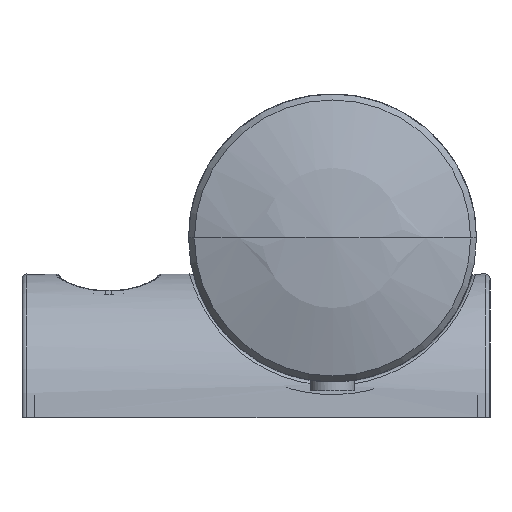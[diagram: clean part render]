
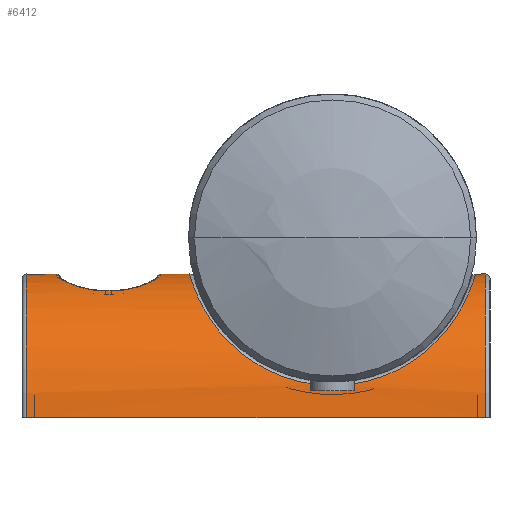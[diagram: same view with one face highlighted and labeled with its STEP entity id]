
A CAD part, left-side view. The second image highlights one B-rep face of the part: STEP entity #6412.
In plain terms, the highlighted cylindrical face has radius 16 mm (diameter 32 mm), a partial arc.
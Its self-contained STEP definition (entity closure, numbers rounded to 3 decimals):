
#6412=ADVANCED_FACE('',(#9072,#9073,#9074),#6718,.T.);
#6718=CYLINDRICAL_SURFACE('',#45813,16.);
#8068=CIRCLE('',#45809,16.);
#8069=CIRCLE('',#45810,16.);
#8070=CIRCLE('',#45811,16.);
#8071=CIRCLE('',#45812,16.);
#8808=B_SPLINE_CURVE_WITH_KNOTS('',3,(#77419,#77420,#77421,#77422,#77423,
#77424,#77425,#77426,#77427,#77428,#77429,#77430,#77431,#77432,#77433,#77434,
#77435,#77436,#77437,#77438,#77439,#77440,#77441,#77442,#77443,#77444,#77445,
#77446,#77447,#77448,#77449,#77450,#77451,#77452),.UNSPECIFIED.,.T.,.F.,
(2,2,2,2,2,2,2,2,2,2,2,2,2,2,2,2,2,2,2),(-0.063,0.,0.063,0.125,0.188,
0.25,0.313,0.375,0.438,0.5,0.563,0.625,0.688,0.75,0.813,0.875,0.938,
1.,1.063),.UNSPECIFIED.);
#8809=B_SPLINE_CURVE_WITH_KNOTS('',3,(#77457,#77458,#77459,#77460,#77461,
#77462),.UNSPECIFIED.,.F.,.F.,(4,2,4),(0.,0.5,1.),.UNSPECIFIED.);
#8810=B_SPLINE_CURVE_WITH_KNOTS('',3,(#77466,#77467,#77468,#77469,#77470,
#77471),.UNSPECIFIED.,.F.,.F.,(4,2,4),(0.,0.5,1.),.UNSPECIFIED.);
#8811=B_SPLINE_CURVE_WITH_KNOTS('',3,(#77475,#77476,#77477,#77478,#77479,
#77480),.UNSPECIFIED.,.F.,.F.,(4,2,4),(0.,0.5,1.),.UNSPECIFIED.);
#8812=B_SPLINE_CURVE_WITH_KNOTS('',3,(#77484,#77485,#77486,#77487,#77488,
#77489),.UNSPECIFIED.,.F.,.F.,(4,2,4),(0.,0.5,1.),.UNSPECIFIED.);
#9072=FACE_BOUND('',#11438,.T.);
#9073=FACE_BOUND('',#11439,.T.);
#9074=FACE_BOUND('',#11440,.T.);
#11438=EDGE_LOOP('',(#23671));
#11439=EDGE_LOOP('',(#23672,#23673,#23674,#23675,#23676,#23677,#23678,#23679));
#11440=EDGE_LOOP('',(#23680,#23681,#23682,#23683));
#23671=ORIENTED_EDGE('',*,*,#34146,.T.);
#23672=ORIENTED_EDGE('',*,*,#34147,.T.);
#23673=ORIENTED_EDGE('',*,*,#34148,.T.);
#23674=ORIENTED_EDGE('',*,*,#34149,.T.);
#23675=ORIENTED_EDGE('',*,*,#34150,.T.);
#23676=ORIENTED_EDGE('',*,*,#34151,.T.);
#23677=ORIENTED_EDGE('',*,*,#34152,.T.);
#23678=ORIENTED_EDGE('',*,*,#34153,.T.);
#23679=ORIENTED_EDGE('',*,*,#34154,.T.);
#23680=ORIENTED_EDGE('',*,*,#34155,.F.);
#23681=ORIENTED_EDGE('',*,*,#34156,.T.);
#23682=ORIENTED_EDGE('',*,*,#34157,.F.);
#23683=ORIENTED_EDGE('',*,*,#34158,.T.);
#28010=VERTEX_POINT('',#77453);
#28011=VERTEX_POINT('',#77455);
#28012=VERTEX_POINT('',#77456);
#28013=VERTEX_POINT('',#77463);
#28014=VERTEX_POINT('',#77465);
#28015=VERTEX_POINT('',#77472);
#28016=VERTEX_POINT('',#77474);
#28017=VERTEX_POINT('',#77481);
#28018=VERTEX_POINT('',#77483);
#28019=VERTEX_POINT('',#77491);
#28020=VERTEX_POINT('',#77492);
#28021=VERTEX_POINT('',#77494);
#28022=VERTEX_POINT('',#77496);
#34146=EDGE_CURVE('',#28010,#28010,#8808,.T.);
#34147=EDGE_CURVE('',#28011,#28012,#8068,.T.);
#34148=EDGE_CURVE('',#28012,#28013,#8809,.T.);
#34149=EDGE_CURVE('',#28013,#28014,#38258,.T.);
#34150=EDGE_CURVE('',#28014,#28015,#8810,.T.);
#34151=EDGE_CURVE('',#28015,#28016,#8069,.T.);
#34152=EDGE_CURVE('',#28016,#28017,#8811,.T.);
#34153=EDGE_CURVE('',#28017,#28018,#38259,.T.);
#34154=EDGE_CURVE('',#28018,#28011,#8812,.T.);
#34155=EDGE_CURVE('',#28019,#28020,#38260,.T.);
#34156=EDGE_CURVE('',#28019,#28021,#8070,.T.);
#34157=EDGE_CURVE('',#28022,#28021,#38261,.T.);
#34158=EDGE_CURVE('',#28022,#28020,#8071,.T.);
#38258=LINE('',#77464,#42298);
#38259=LINE('',#77482,#42299);
#38260=LINE('',#77490,#42300);
#38261=LINE('',#77495,#42301);
#42298=VECTOR('',#56750,1.);
#42299=VECTOR('',#56753,1.);
#42300=VECTOR('',#56754,1.);
#42301=VECTOR('',#56757,1.);
#45809=AXIS2_PLACEMENT_3D('',#77454,#56748,#56749);
#45810=AXIS2_PLACEMENT_3D('',#77473,#56751,#56752);
#45811=AXIS2_PLACEMENT_3D('',#77493,#56755,#56756);
#45812=AXIS2_PLACEMENT_3D('',#77497,#56758,#56759);
#45813=AXIS2_PLACEMENT_3D('',#77498,#56760,#56761);
#56748=DIRECTION('',(0.,1.,0.));
#56749=DIRECTION('',(0.,0.,1.));
#56750=DIRECTION('',(0.,-1.,0.));
#56751=DIRECTION('',(0.,-1.,0.));
#56752=DIRECTION('',(0.,0.,-1.));
#56753=DIRECTION('',(0.,1.,0.));
#56754=DIRECTION('',(0.,1.,0.));
#56755=DIRECTION('',(0.,1.,0.));
#56756=DIRECTION('',(0.,0.,-1.));
#56757=DIRECTION('',(0.,-1.,0.));
#56758=DIRECTION('',(0.,-1.,0.));
#56759=DIRECTION('',(0.,0.,1.));
#56760=DIRECTION('',(0.,-1.,0.));
#56761=DIRECTION('',(0.,0.,-1.));
#77419=CARTESIAN_POINT('',(-127.533,115.875,-4.));
#77420=CARTESIAN_POINT('',(-122.454,115.875,-4.));
#77421=CARTESIAN_POINT('',(-119.944,115.735,-4.619));
#77422=CARTESIAN_POINT('',(-115.553,114.862,-6.85));
#77423=CARTESIAN_POINT('',(-113.672,114.086,-8.493));
#77424=CARTESIAN_POINT('',(-111.042,111.382,-11.879));
#77425=CARTESIAN_POINT('',(-110.317,109.496,-13.516));
#77426=CARTESIAN_POINT('',(-109.516,105.047,-15.771));
#77427=CARTESIAN_POINT('',(-109.407,102.514,-16.386));
#77428=CARTESIAN_POINT('',(-109.407,97.502,-16.388));
#77429=CARTESIAN_POINT('',(-109.515,94.985,-15.78));
#77430=CARTESIAN_POINT('',(-110.305,90.549,-13.547));
#77431=CARTESIAN_POINT('',(-111.033,88.642,-11.901));
#77432=CARTESIAN_POINT('',(-113.627,85.945,-8.541));
#77433=CARTESIAN_POINT('',(-115.486,85.155,-6.891));
#77434=CARTESIAN_POINT('',(-119.936,84.262,-4.616));
#77435=CARTESIAN_POINT('',(-122.461,84.127,-4.005));
#77436=CARTESIAN_POINT('',(-127.465,84.124,-3.995));
#77437=CARTESIAN_POINT('',(-129.982,84.255,-4.593));
#77438=CARTESIAN_POINT('',(-134.451,85.138,-6.854));
#77439=CARTESIAN_POINT('',(-136.317,85.921,-8.498));
#77440=CARTESIAN_POINT('',(-138.925,88.591,-11.849));
#77441=CARTESIAN_POINT('',(-139.671,90.508,-13.519));
#77442=CARTESIAN_POINT('',(-140.47,94.944,-15.767));
#77443=CARTESIAN_POINT('',(-140.58,97.456,-16.385));
#77444=CARTESIAN_POINT('',(-140.581,102.516,-16.389));
#77445=CARTESIAN_POINT('',(-140.47,105.039,-15.771));
#77446=CARTESIAN_POINT('',(-139.679,109.46,-13.539));
#77447=CARTESIAN_POINT('',(-138.952,111.361,-11.897));
#77448=CARTESIAN_POINT('',(-136.358,114.055,-8.539));
#77449=CARTESIAN_POINT('',(-134.463,114.855,-6.867));
#77450=CARTESIAN_POINT('',(-130.046,115.737,-4.618));
#77451=CARTESIAN_POINT('',(-127.533,115.875,-4.));
#77452=CARTESIAN_POINT('',(-122.454,115.875,-4.));
#77453=CARTESIAN_POINT('',(-124.994,115.875,-4.));
#77454=CARTESIAN_POINT('',(-124.994,130.7,-20.));
#77455=CARTESIAN_POINT('',(-126.852,130.7,-4.108));
#77456=CARTESIAN_POINT('',(-123.136,130.7,-4.108));
#77457=CARTESIAN_POINT('',(-123.136,130.7,-4.108));
#77458=CARTESIAN_POINT('',(-121.635,130.7,-4.284));
#77459=CARTESIAN_POINT('',(-120.205,130.118,-4.692));
#77460=CARTESIAN_POINT('',(-118.124,128.144,-5.507));
#77461=CARTESIAN_POINT('',(-117.458,126.713,-5.886));
#77462=CARTESIAN_POINT('',(-117.458,125.2,-5.886));
#77463=CARTESIAN_POINT('',(-117.458,125.2,-5.886));
#77464=CARTESIAN_POINT('',(-117.458,100.,-5.886));
#77465=CARTESIAN_POINT('',(-117.458,124.6,-5.886));
#77466=CARTESIAN_POINT('',(-117.458,124.6,-5.886));
#77467=CARTESIAN_POINT('',(-117.458,123.087,-5.886));
#77468=CARTESIAN_POINT('',(-118.123,121.657,-5.507));
#77469=CARTESIAN_POINT('',(-120.205,119.683,-4.693));
#77470=CARTESIAN_POINT('',(-121.636,119.1,-4.284));
#77471=CARTESIAN_POINT('',(-123.136,119.1,-4.108));
#77472=CARTESIAN_POINT('',(-123.136,119.1,-4.108));
#77473=CARTESIAN_POINT('',(-124.994,119.1,-20.));
#77474=CARTESIAN_POINT('',(-126.852,119.1,-4.108));
#77475=CARTESIAN_POINT('',(-126.852,119.1,-4.108));
#77476=CARTESIAN_POINT('',(-128.352,119.1,-4.284));
#77477=CARTESIAN_POINT('',(-129.782,119.682,-4.692));
#77478=CARTESIAN_POINT('',(-131.864,121.656,-5.507));
#77479=CARTESIAN_POINT('',(-132.529,123.087,-5.886));
#77480=CARTESIAN_POINT('',(-132.529,124.6,-5.886));
#77481=CARTESIAN_POINT('',(-132.529,124.6,-5.886));
#77482=CARTESIAN_POINT('',(-132.529,100.,-5.886));
#77483=CARTESIAN_POINT('',(-132.529,125.2,-5.886));
#77484=CARTESIAN_POINT('',(-132.529,125.2,-5.886));
#77485=CARTESIAN_POINT('',(-132.529,126.713,-5.886));
#77486=CARTESIAN_POINT('',(-131.864,128.143,-5.507));
#77487=CARTESIAN_POINT('',(-129.783,130.117,-4.693));
#77488=CARTESIAN_POINT('',(-128.352,130.7,-4.284));
#77489=CARTESIAN_POINT('',(-126.852,130.7,-4.108));
#77490=CARTESIAN_POINT('',(-140.994,100.,-20.));
#77491=CARTESIAN_POINT('',(-140.994,83.,-20.));
#77492=CARTESIAN_POINT('',(-140.994,134.,-20.));
#77493=CARTESIAN_POINT('',(-124.994,83.,-20.));
#77494=CARTESIAN_POINT('',(-108.994,83.,-20.));
#77495=CARTESIAN_POINT('',(-108.994,100.,-20.));
#77496=CARTESIAN_POINT('',(-108.994,134.,-20.));
#77497=CARTESIAN_POINT('',(-124.994,134.,-20.));
#77498=CARTESIAN_POINT('',(-124.994,100.,-20.));
